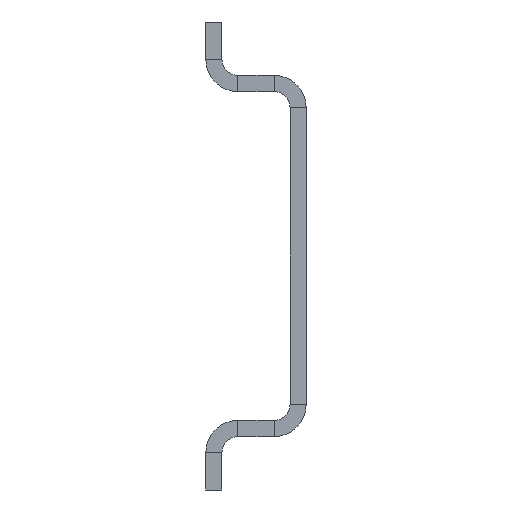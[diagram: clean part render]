
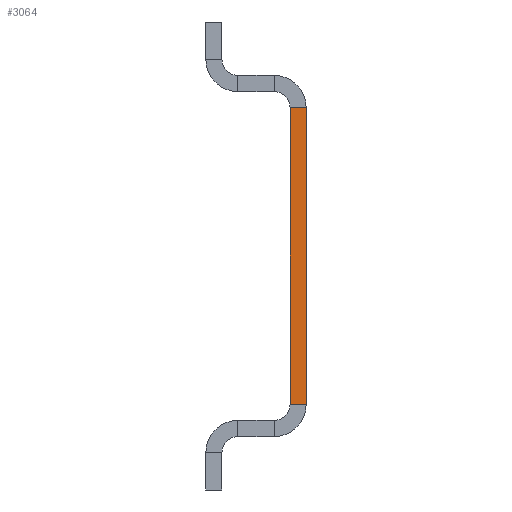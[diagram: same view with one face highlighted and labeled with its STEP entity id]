
A CAD part, left-side view. The second image highlights one B-rep face of the part: STEP entity #3064.
In plain terms, the highlighted planar face has unit normal (-1, 0, 0).
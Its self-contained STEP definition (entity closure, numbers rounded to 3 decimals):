
#173 = ORIENTED_EDGE ( 'NONE', *, *, #6728, .T. ) ;
#669 = VERTEX_POINT ( 'NONE', #6668 ) ;
#699 = LINE ( 'NONE', #5332, #3224 ) ;
#983 = PLANE ( 'NONE',  #997 ) ;
#997 = AXIS2_PLACEMENT_3D ( 'NONE', #6965, #4005, #4500 ) ;
#1730 = VECTOR ( 'NONE', #6892, 1000. ) ;
#2077 = EDGE_CURVE ( 'NONE', #2702, #5659, #2699, .T. ) ;
#2385 = DIRECTION ( 'NONE',  ( 0., 1., 0. ) ) ;
#2457 = LINE ( 'NONE', #4140, #6762 ) ;
#2699 = LINE ( 'NONE', #6807, #4729 ) ;
#2702 = VERTEX_POINT ( 'NONE', #6187 ) ;
#3064 = ADVANCED_FACE ( 'NONE', ( #5623 ), #983, .T. ) ;
#3109 = EDGE_CURVE ( 'NONE', #4205, #5659, #4579, .T. ) ;
#3169 = CARTESIAN_POINT ( 'NONE',  ( -587.5, -1.2, 11.1 ) ) ;
#3224 = VECTOR ( 'NONE', #3679, 1000. ) ;
#3317 = CARTESIAN_POINT ( 'NONE',  ( -587.5, -1.2, 12.3 ) ) ;
#3679 = DIRECTION ( 'NONE',  ( 0., 0., -1. ) ) ;
#4005 = DIRECTION ( 'NONE',  ( -1., 0., 0. ) ) ;
#4140 = CARTESIAN_POINT ( 'NONE',  ( -587.5, -1.2, 11.1 ) ) ;
#4174 = CARTESIAN_POINT ( 'NONE',  ( -587.5, -1.2, -11.1 ) ) ;
#4205 = VERTEX_POINT ( 'NONE', #3169 ) ;
#4500 = DIRECTION ( 'NONE',  ( 0., 0., 1. ) ) ;
#4579 = LINE ( 'NONE', #3317, #1730 ) ;
#4720 = ORIENTED_EDGE ( 'NONE', *, *, #2077, .T. ) ;
#4729 = VECTOR ( 'NONE', #7316, 1000. ) ;
#5039 = ORIENTED_EDGE ( 'NONE', *, *, #3109, .F. ) ;
#5254 = ORIENTED_EDGE ( 'NONE', *, *, #5607, .T. ) ;
#5332 = CARTESIAN_POINT ( 'NONE',  ( -587.5, 0., 12.3 ) ) ;
#5607 = EDGE_CURVE ( 'NONE', #669, #2702, #699, .T. ) ;
#5623 = FACE_OUTER_BOUND ( 'NONE', #7171, .T. ) ;
#5659 = VERTEX_POINT ( 'NONE', #4174 ) ;
#6187 = CARTESIAN_POINT ( 'NONE',  ( -587.5, 0., -11.1 ) ) ;
#6668 = CARTESIAN_POINT ( 'NONE',  ( -587.5, 0., 11.1 ) ) ;
#6728 = EDGE_CURVE ( 'NONE', #4205, #669, #2457, .T. ) ;
#6762 = VECTOR ( 'NONE', #2385, 1000. ) ;
#6807 = CARTESIAN_POINT ( 'NONE',  ( -587.5, 0., -11.1 ) ) ;
#6892 = DIRECTION ( 'NONE',  ( 0., 0., -1. ) ) ;
#6965 = CARTESIAN_POINT ( 'NONE',  ( -587.5, 1.2, -13.5 ) ) ;
#7171 = EDGE_LOOP ( 'NONE', ( #5254, #4720, #5039, #173 ) ) ;
#7316 = DIRECTION ( 'NONE',  ( 0., -1., 0. ) ) ;
